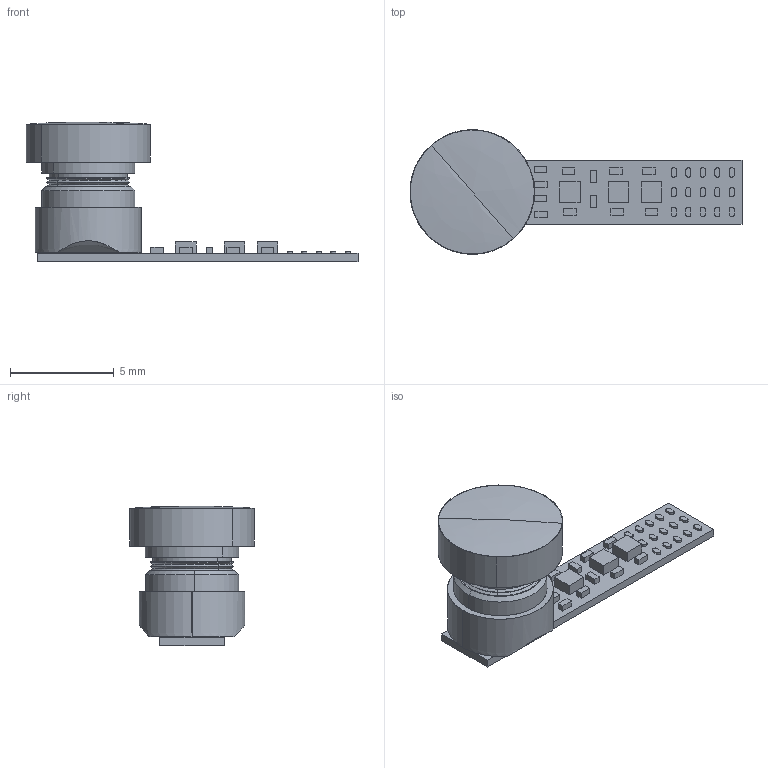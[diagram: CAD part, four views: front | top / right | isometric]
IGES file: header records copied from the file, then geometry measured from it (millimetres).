
Start section: SolidWorks IGES file using analytic representation for surfaces
Bounding box: 16 x 6 x 6.71 mm (x, y, z)
Surface area: 530 mm2 (no closed solid volume)
Topology: 0 solids, 0 shells, 280 faces, 2552 edges, 2550 vertices
Faces by surface type: bspline 168, revolution 112
